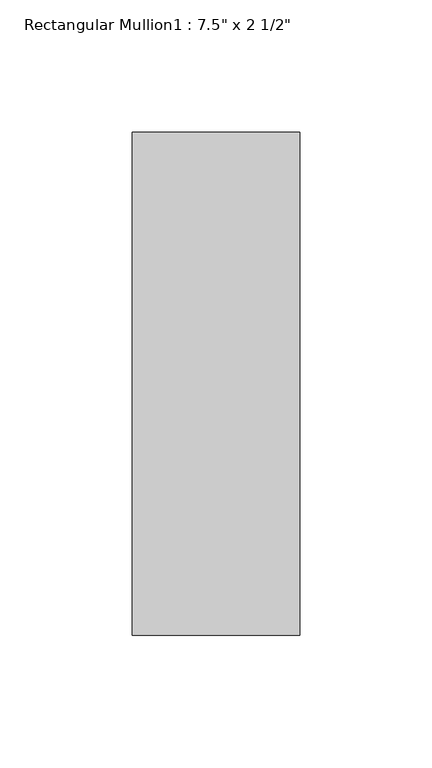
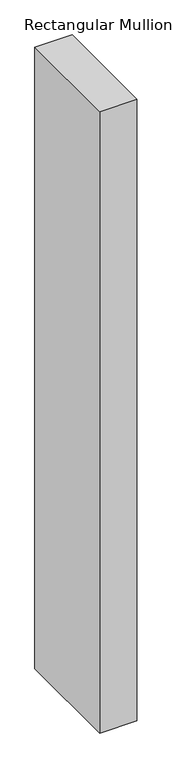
"""IFC4 building model written with IfcOpenShell, lengths in millimetres: member geometry."""

from ifc_helpers import new_model, si_unit, frame, origin, place, context, project, spatial, polyline, outline, extrude, source, transform, mapped, element, save


def member_f5ed5f80(model_context):
    return source(origin(), model_context, "Body", "SweptSolid", [
        extrude(outline(polyline([(0.0, 165.1), (0.0, -25.4), (-63.5, -25.4), (-63.5, 165.1), (0.0, 165.1)])), frame((0.0, 0.0, -1117.5999994), z_axis=(0.0, 0.0, 1.0), x_axis=(1.0, 0.0, 0.0)), (0.0, 0.0, 1.0), 1117.5999994),
    ])


if __name__ == "__main__":
    model = new_model("IFC4")
    model_context = context("Model", 3, world=origin())
    ifc_project = project(units=[si_unit("LENGTHUNIT", "METRE", prefix="MILLI")], contexts=[model_context])
    site = spatial("IfcSite", under=ifc_project)
    building = spatial("IfcBuilding", under=site)
    placement = place(None, origin())
    member_shape = member_f5ed5f80(model_context)
    element("IfcMember", 1, ObjectType="Rectangular Mullion1 : 7.5\" x 2 1/2\"", at=placement, inside=building, context=model_context, shape_type="MappedRepresentation", body=[
        mapped(member_shape, transform((0.0, 0.0, 0.0), x_axis=(1.0, 0.0, 0.0), y_axis=(0.0, 1.0, 0.0), z_axis=(0.0, 0.0, 1.0))),
    ])
    save(model, "model.ifc")
